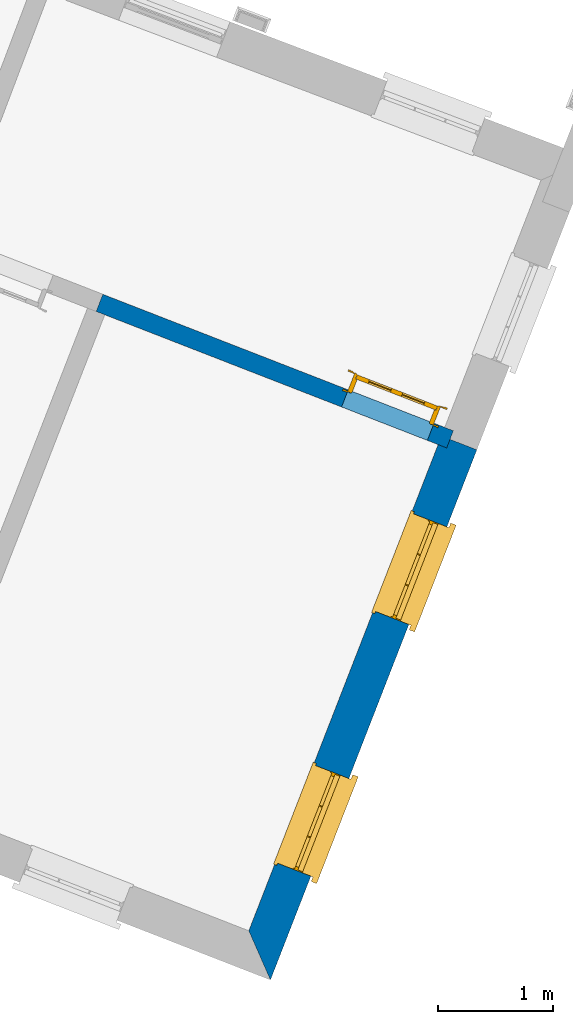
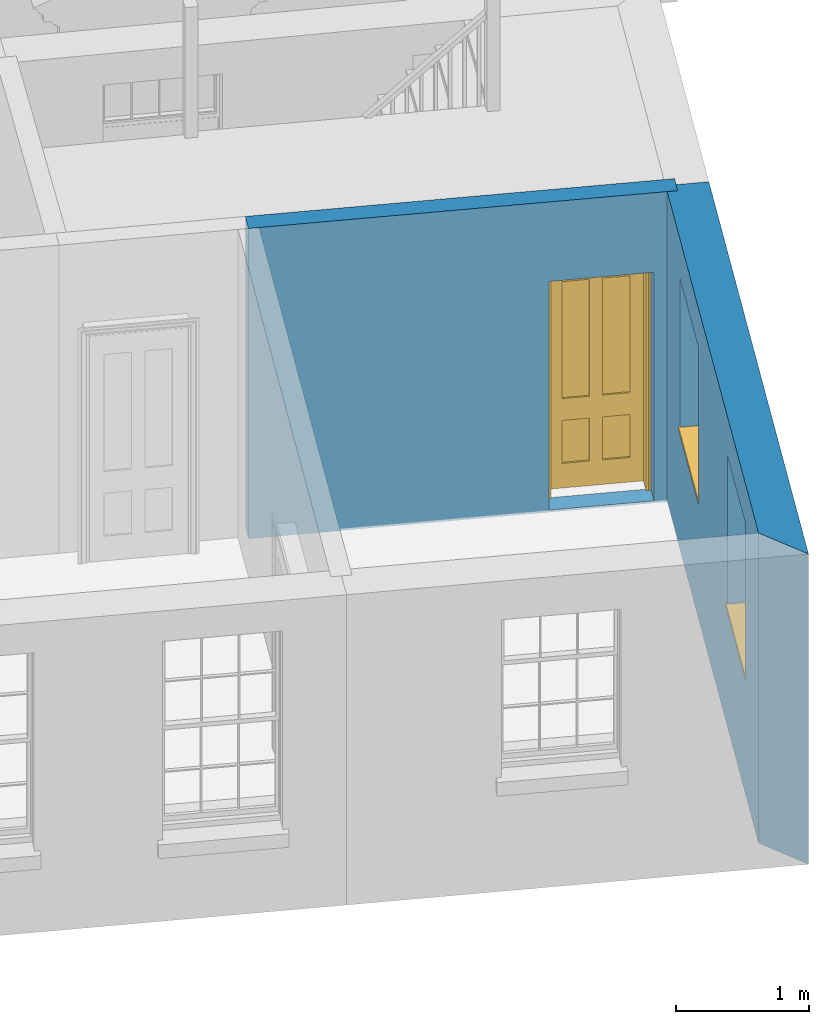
# One storey, part 6 of 10: 2 walls, 2 windows, 1 door, 3 openings.
"""IFC4 building model written with IfcOpenShell, lengths in metres."""

from ifc_helpers import new_model, si_unit, frame, origin, origin_with_axes, place, context, subcontext, project, spatial, polyline, outline, extrude, faceted_brep, source, transform, mapped, material, layer, layer_set, layer_usage, type_object, type_shapes, element, fill, save


model = new_model("IFC4")

# Units and contexts
model_context = context("Model", 3, world=origin_with_axes())
body_context = subcontext(model_context, "Body", "Model", "MODEL_VIEW")
ifc_project = project(units=[si_unit("PLANEANGLEUNIT", "RADIAN"), si_unit("MASSUNIT", "GRAM", prefix="KILO"), si_unit("FORCEUNIT", "NEWTON", prefix="KILO"), si_unit("LENGTHUNIT", "METRE"), si_unit("AREAUNIT", "SQUARE_METRE"), si_unit("VOLUMEUNIT", "CUBIC_METRE")], contexts=[model_context, model_context])

# Sites, building, storey
site_1_placement = place(None, origin_with_axes())
site_1 = spatial("IfcSite", under=ifc_project, at=site_1_placement, Name="Tamar")
site_2_placement = place(site_1_placement, origin_with_axes())
site_2 = spatial("IfcSite", under=site_1, at=site_2_placement, Name="Site plot-8", CompositionType="ELEMENT")
building_placement = place(None, origin_with_axes())
building = spatial("IfcBuilding", under=site_2, at=building_placement, Name="Building plot-8", CompositionType="ELEMENT")
storey_placement = place(None, frame((0.0, 0.0, 26.0), z_axis=(0.0, 0.0, 1.0), x_axis=(1.0, 0.0, 0.0)))
storey = spatial("IfcBuildingStorey", under=building, at=storey_placement, Name="plot-8 0", CompositionType="ELEMENT", Elevation=26.0)

# Wall, openings, windows
ifc_material_1 = material(Name="Masonry")
ifc_layer_1 = layer(ifc_material_1, 0.33, ventilated=False)
ifc_layer_set_1 = layer_set([ifc_layer_1], Name="exterior_0.08_0.25")
ifc_layer_usage_1 = layer_usage(ifc_layer_set_1, "AXIS2", "POSITIVE", -0.25)
wall_type_1 = type_object("IfcWallType", Name="exterior_0.08_0.25", PredefinedType="SOLIDWALL", material=ifc_layer_set_1)
wall_1_placement = place(storey_placement, frame((228.84289710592, 302.396840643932, 0.0), z_axis=(0.0, 0.0, 1.0), x_axis=(0.362808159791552, 0.931863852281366, 0.0)))
wall_1 = element("IfcWall", 1, at=wall_1_placement, inside=storey, type_object=wall_type_1, material=ifc_layer_usage_1, Name="exterior", context=body_context, shape_type="SweptSolid", body=[
    extrude(outline(polyline([(0.0800000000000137, 0.0799999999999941), (-0.250000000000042, -0.250000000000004), (4.69140201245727, -0.249999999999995), (4.69140201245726, 0.0800000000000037), (0.0800000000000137, 0.0799999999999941)])), origin_with_axes(), (0.0, 0.0, 1.0), 2.85),
])
opening_1_placement = place(wall_1_placement, frame((0.717850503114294, 0.0, 1.05)))
opening_1 = element("IfcOpeningElement", 2, at=opening_1_placement, cuts=wall_1, Name="My Opening", ObjectType="Opening", context=body_context, shape_type="SweptSolid", body=[
    extrude(outline(polyline([(0.0, -0.269999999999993), (0.910000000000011, -0.270000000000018), (0.910000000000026, 1.09999999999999), (1.55431223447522e-14, 1.10000000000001), (0.0, -0.269999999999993)])), origin_with_axes(), (0.0, 0.0, 1.0), 1.445),
])
opening_2_placement = place(wall_1_placement, frame((3.06355150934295, 0.0, 1.05)))
opening_2 = element("IfcOpeningElement", 3, at=opening_2_placement, cuts=wall_1, Name="My Opening", ObjectType="Opening", context=body_context, shape_type="SweptSolid", body=[
    extrude(outline(polyline([(0.0, -0.269999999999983), (0.910000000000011, -0.270000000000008), (0.910000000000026, 1.1), (1.55431223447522e-14, 1.10000000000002), (0.0, -0.269999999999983)])), origin_with_axes(), (0.0, 0.0, 1.0), 1.445),
])
window_type = type_object("IfcWindowType", Name="sash_shorter", PartitioningType="DOUBLE_PANEL_HORIZONTAL", PredefinedType="NOTDEFINED")
shared_shape_1 = source(origin(), body_context, "Body", "Brep", [
    faceted_brep([(0.876875, 0.145, 0.999097), (0.876875, 0.145, 1.411875), (0.9, 0.145, 1.435), (0.033125, 0.145, 1.411875), (0.033125, 0.145, 0.999097), (0.01, 0.145, 1.435), (0.033125, 0.115, 1.411875), (0.01, 0.115, 1.435), (0.033125, 0.115, 0.999097), (0.876875, 0.115, 1.411875), (0.876875, 0.115, 0.999097), (0.9, 0.115, 1.435), (0.033125, 0.145, 0.960972), (0.01, 0.145, 0.960972), (0.033125, 0.145, 0.548195), (0.876875, 0.145, 0.960972), (0.876875, 0.145, 0.548195), (0.9, 0.145, 0.960972), (0.876875, 0.145, 0.538195), (0.876875, 0.145, 0.125417), (0.9, 0.145, 0.077167), (0.033125, 0.145, 0.125417), (0.033125, 0.145, 0.538195), (0.01, 0.145, 0.077167), (0.9, 0.115, 0.960972), (0.01, 0.115, 0.960972), (-0.0425, 0.0, 0.01), (-0.0425, -0.05, 0.001667), (0.0, 0.0, 0.01), (0.9525, 0.0, 0.01), (0.91, 0.0, 0.01), (0.9525, -0.05, 0.001667), (-0.02, 0.33, 0.077167), (0.0, 0.33, 0.077167), (-0.02, 0.36, 0.077167), (0.0, 0.19, 0.077167), (0.01, 0.19, 0.077167), (0.91, 0.19, 0.077167), (0.91, 0.33, 0.077167), (0.9, 0.19, 0.077167), (0.93, 0.33, 0.077167), (0.93, 0.36, 0.077167), (0.01, 0.145, 0.999097), (0.01, 0.175, 0.999097), (0.9, 0.145, 0.999097), (0.9, 0.175, 0.999097), (0.876875, 0.175, 0.125417), (0.876875, 0.175, 0.538195), (0.9, 0.175, 0.077167), (0.876875, 0.175, 0.548195), (0.876875, 0.175, 0.960972), (0.033125, 0.175, 0.125417), (0.01, 0.175, 0.077167), (0.033125, 0.175, 0.538195), (0.033125, 0.175, 0.960972), (0.033125, 0.175, 0.548195), (-0.02, 0.33, 0.052167), (-0.02, 0.36, 0.052167), (0.93, 0.36, 0.052167), (0.93, 0.33, 0.052167), (0.91, 0.33, 0.052167), (0.0, 0.33, 0.052167), (0.91, 0.1, 0.026667), (0.0, 0.1, 0.026667), (-0.0425, -0.05, -0.123333), (0.9525, -0.05, -0.123333), (-0.0425, 0.0, -0.123333), (0.9525, 0.0, -0.123333), (0.01, 0.19, 1.435), (0.9, 0.19, 1.435), (0.0, 0.19, 1.445), (0.91, 0.19, 1.445), (0.01, 0.1, 0.077167), (0.9, 0.1, 0.077167), (0.592292, 0.145, 0.125417), (0.592292, 0.175, 0.125417), (0.317708, 0.175, 0.125417), (0.317708, 0.145, 0.125417), (0.592292, 0.145, 0.548195), (0.317708, 0.145, 0.548195), (0.317708, 0.145, 0.538195), (0.592292, 0.145, 0.538195), (0.592292, 0.175, 0.548195), (0.317708, 0.175, 0.548195), (0.602292, 0.175, 0.548195), (0.602292, 0.145, 0.548195), (0.317708, 0.175, 0.538195), (0.307708, 0.175, 0.125417), (0.307708, 0.175, 0.538195), (0.602292, 0.175, 0.538195), (0.602292, 0.175, 0.125417), (0.592292, 0.175, 0.538195), (0.307708, 0.175, 0.548195), (0.317708, 0.175, 0.960972), (0.307708, 0.175, 0.960972), (0.602292, 0.175, 0.960972), (0.592292, 0.175, 0.960972), (0.307708, 0.145, 0.538195), (0.307708, 0.145, 0.125417), (0.307708, 0.145, 0.548195), (0.307708, 0.145, 0.960972), (0.592292, 0.145, 0.960972), (0.317708, 0.145, 0.960972), (0.602292, 0.145, 0.960972), (0.602292, 0.145, 0.538195), (0.602292, 0.145, 0.125417), (0.317708, 0.115, 1.411875), (0.307708, 0.115, 1.411875), (0.307708, 0.115, 0.999097), (0.317708, 0.115, 0.999097), (0.602292, 0.115, 1.411875), (0.592292, 0.115, 1.411875), (0.592292, 0.115, 0.999097), (0.602292, 0.115, 0.999097), (0.317708, 0.145, 0.999097), (0.307708, 0.145, 0.999097), (0.307708, 0.145, 1.411875), (0.317708, 0.145, 1.411875), (0.602292, 0.145, 0.999097), (0.592292, 0.145, 0.999097), (0.592292, 0.145, 1.411875), (0.602292, 0.145, 1.411875), (0.91, 0.1, 1.445), (0.9, 0.1, 1.435), (0.01, 0.1, 1.435), (0.0, 0.1, 1.445), (0.91, 0.0, 0.0), (0.0, 0.0, 0.0), (0.91, 0.33, 0.0), (0.0, 0.33, 0.0)], [[[0, 1, 2]], [[3, 4, 5]], [[6, 7, 8]], [[9, 10, 11]], [[12, 13, 14]], [[15, 16, 17]], [[18, 19, 20]], [[21, 22, 23]], [[24, 15, 17]], [[13, 12, 25]], [[26, 27, 28]], [[29, 30, 31]], [[32, 33, 34]], [[35, 36, 33]], [[37, 38, 39]], [[40, 41, 38]], [[42, 4, 43]], [[44, 45, 0]], [[46, 47, 48]], [[49, 50, 45]], [[51, 52, 53]], [[54, 55, 43]], [[38, 33, 36, 39]], [[41, 34, 33, 38]], [[56, 32, 34, 57]], [[57, 34, 41, 58]], [[58, 41, 40, 59]], [[57, 58, 60, 61]], [[52, 48, 39, 36]], [[62, 63, 28, 30]], [[27, 31, 30, 28]], [[27, 64, 65, 31]], [[66, 67, 65, 64]], [[2, 5, 68, 69]], [[68, 70, 71, 69]], [[20, 23, 72, 73]], [[73, 72, 63, 62]], [[74, 75, 76, 77]], [[78, 79, 80, 81]], [[78, 82, 83, 79]], [[16, 49, 84, 85]], [[86, 76, 87, 88]], [[89, 90, 75, 91]], [[92, 88, 53, 55]], [[82, 91, 86, 83]], [[93, 83, 92, 94]], [[95, 84, 82, 96]], [[89, 84, 49, 47]], [[97, 88, 87, 98]], [[22, 53, 88, 97]], [[81, 91, 75, 74]], [[80, 86, 91, 81]], [[77, 76, 86, 80]], [[99, 92, 55, 14]], [[100, 94, 92, 99]], [[101, 96, 82, 78]], [[79, 83, 93, 102]], [[85, 84, 95, 103]], [[104, 89, 47, 18]], [[105, 90, 89, 104]], [[104, 18, 16, 85]], [[80, 97, 98, 77]], [[104, 81, 74, 105]], [[103, 101, 78, 85]], [[99, 14, 22, 97]], [[102, 100, 99, 79]], [[106, 107, 108, 109]], [[110, 111, 112, 113]], [[114, 115, 116, 117]], [[118, 119, 120, 121]], [[107, 116, 115, 108]], [[111, 120, 119, 112]], [[109, 114, 117, 106]], [[113, 118, 121, 110]], [[85, 78, 81, 104]], [[84, 89, 91, 82]], [[83, 86, 88, 92]], [[79, 99, 97, 80]], [[109, 112, 119, 114]], [[102, 93, 96, 101]], [[106, 117, 120, 111]], [[98, 87, 51, 21]], [[6, 3, 116, 107]], [[110, 121, 1, 9]], [[19, 46, 90, 105]], [[26, 66, 64, 27]], [[29, 31, 65, 67]], [[25, 24, 112, 109]], [[11, 7, 106, 111]], [[75, 48, 52, 76]], [[43, 45, 96, 93]], [[45, 43, 114, 119]], [[5, 2, 120, 117]], [[24, 25, 102, 101]], [[42, 5, 4]], [[2, 44, 0]], [[49, 45, 48, 47]], [[52, 43, 55, 53]], [[14, 13, 23, 22]], [[20, 17, 16, 18]], [[24, 11, 10]], [[25, 8, 7]], [[8, 4, 3, 6]], [[9, 1, 0, 10]], [[15, 50, 49, 16]], [[18, 47, 46, 19]], [[21, 51, 53, 22]], [[14, 55, 54, 12]], [[44, 2, 69, 45]], [[68, 5, 42, 43]], [[36, 35, 70, 68]], [[39, 69, 71, 37]], [[62, 122, 123, 73]], [[63, 72, 124, 125]], [[8, 108, 115, 4]], [[113, 10, 0, 118]], [[94, 100, 12, 54]], [[17, 20, 73, 24]], [[72, 23, 13, 25]], [[52, 36, 68, 43]], [[69, 39, 48, 45]], [[11, 24, 73, 123]], [[7, 124, 72, 25]], [[23, 77, 98]], [[98, 21, 23]], [[105, 74, 20]], [[20, 19, 105]], [[20, 74, 77, 23]], [[113, 112, 24]], [[24, 10, 113]], [[25, 109, 108]], [[108, 8, 25]], [[110, 9, 11]], [[11, 111, 110]], [[7, 6, 107]], [[107, 106, 7]], [[5, 117, 116]], [[116, 3, 5]], [[121, 120, 2]], [[2, 1, 121]], [[11, 123, 124, 7]], [[122, 125, 124, 123]], [[43, 93, 94]], [[94, 54, 43]], [[96, 45, 95]], [[50, 95, 45]], [[15, 103, 95, 50]], [[48, 75, 90]], [[90, 46, 48]], [[87, 76, 52]], [[52, 51, 87]], [[103, 15, 24]], [[24, 101, 103]], [[100, 102, 25]], [[25, 12, 100]], [[115, 114, 43]], [[43, 4, 115]], [[118, 0, 45]], [[45, 119, 118]], [[71, 70, 125, 122]], [[70, 35, 63, 125]], [[122, 62, 37, 71]], [[126, 67, 66, 127]], [[60, 58, 59]], [[38, 60, 59, 40]], [[61, 56, 57]], [[32, 56, 61, 33]], [[61, 60, 128, 129]], [[62, 60, 38, 37]], [[126, 128, 60, 62]], [[33, 61, 63, 35]], [[61, 129, 127, 63]], [[128, 126, 127, 129]], [[28, 127, 66, 26]], [[63, 127, 28]], [[29, 67, 126, 30]], [[30, 126, 62]]]),
])
type_shapes(window_type, [shared_shape_1])
window_1_placement = place(storey_placement, frame((229.354942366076, 302.967821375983, 1.05), z_axis=(0.0, 0.0, 1.0), x_axis=(0.330155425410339, 0.847996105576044, 0.0)))
window_1 = element("IfcWindow", 4, at=window_1_placement, inside=storey, type_object=window_type, Name="kitchen street window", OverallHeight=1.445, OverallWidth=0.91, context=body_context, shape_type="MappedRepresentation", body=[
    mapped(shared_shape_1, transform((0.0, 0.0, 0.0), scale=1.0)),
])
fill(opening_1, window_1)
window_2_placement = place(storey_placement, frame((230.205981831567, 305.153695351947, 1.05), z_axis=(0.0, 0.0, 1.0), x_axis=(0.330155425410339, 0.847996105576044, 0.0)))
window_2 = element("IfcWindow", 5, at=window_2_placement, inside=storey, type_object=window_type, Name="kitchen street window", OverallHeight=1.445, OverallWidth=0.91, context=body_context, shape_type="MappedRepresentation", body=[
    mapped(shared_shape_1, transform((0.0, 0.0, 0.0), scale=1.0)),
])
fill(opening_2, window_2)

# Wall, opening, door
ifc_material_2 = material(Name="Masonry")
ifc_layer_2 = layer(ifc_material_2, 0.16, ventilated=False)
ifc_layer_set_2 = layer_set([ifc_layer_2], Name="interior_0.08_0.08")
ifc_layer_usage_2 = layer_usage(ifc_layer_set_2, "AXIS2", "POSITIVE", -0.08)
wall_type_2 = type_object("IfcWallType", Name="interior_0.08_0.08", PredefinedType="SOLIDWALL", material=ifc_layer_set_2)
wall_2_placement = place(storey_placement, frame((227.500590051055, 307.953877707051, 0.0), z_axis=(0.0, 0.0, 1.0), x_axis=(0.931863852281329, -0.362808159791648, 0.0)))
wall_2 = element("IfcWall", 6, at=wall_2_placement, inside=storey, type_object=wall_type_2, material=ifc_layer_usage_2, Name="interior", context=body_context, shape_type="SweptSolid", body=[
    extrude(outline(polyline([(1.49703833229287e-15, 0.0800000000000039), (-1.50683550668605e-15, -0.0800000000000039), (3.26698581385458, -0.0800000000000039), (3.26698581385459, 0.080000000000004), (1.49703833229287e-15, 0.0800000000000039)])), origin_with_axes(), (0.0, 0.0, 1.0), 2.85),
])
opening_3_placement = place(wall_2_placement, frame((2.28698581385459, 0.0, 0.0199999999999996)))
opening_3 = element("IfcOpeningElement", 7, at=opening_3_placement, cuts=wall_2, Name="My Opening", ObjectType="Opening", context=body_context, shape_type="SweptSolid", body=[
    extrude(outline(polyline([(0.0, -0.100000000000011), (0.799999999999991, -0.099999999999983), (0.799999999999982, 1.1), (-9.76996261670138e-15, 1.09999999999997), (0.0, -0.100000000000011)])), origin_with_axes(), (0.0, 0.0, 1.0), 2.1),
])
door_type = type_object("IfcDoorType", Name="door_inside", OperationType="SINGLE_SWING_LEFT", PredefinedType="NOTDEFINED")
shared_shape_2 = source(origin(), body_context, "Body", "Brep", [
    faceted_brep([(0.773, 0.33, 1.895), (0.66, 0.33, 1.895), (0.66, 0.33, 2.073), (0.773, 0.33, 2.073), (0.773, 0.33, 0.82), (0.66, 0.33, 0.82), (0.45, 0.33, 1.895), (0.45, 0.33, 2.073), (0.773, 0.33, 0.62), (0.66, 0.33, 0.62), (0.66, 0.315, 0.82), (0.66, 0.315, 1.895), (0.45, 0.315, 1.895), (0.35, 0.33, 1.895), (0.35, 0.33, 2.073), (0.773, 0.33, 0.225), (0.66, 0.33, 0.225), (0.45, 0.33, 0.62), (0.45, 0.33, 0.82), (0.45, 0.315, 0.82), (0.35, 0.33, 0.82), (0.14, 0.33, 2.073), (0.14, 0.33, 1.895), (0.773, 0.33, 0.0), (0.66, 0.33, 0.0), (0.66, 0.315, 0.225), (0.66, 0.315, 0.62), (0.45, 0.315, 0.62), (0.35, 0.33, 0.62), (0.35, 0.315, 0.82), (0.35, 0.315, 1.895), (0.14, 0.315, 1.895), (0.027, 0.33, 2.073), (0.027, 0.33, 1.895), (0.773, 0.292, 0.0), (0.66, 0.292, 0.0), (0.45, 0.33, 0.0), (0.45, 0.33, 0.225), (0.45, 0.315, 0.225), (0.35, 0.33, 0.225), (0.14, 0.33, 0.82), (0.14, 0.33, 0.62), (0.14, 0.315, 0.82), (0.027, 0.33, 0.82), (0.773, 0.292, 0.225), (0.66, 0.292, 0.225), (0.45, 0.292, 0.0), (0.35, 0.33, 0.0), (0.35, 0.315, 0.225), (0.35, 0.315, 0.62), (0.14, 0.315, 0.62), (0.027, 0.33, 0.62), (0.773, 0.292, 0.62), (0.66, 0.292, 0.62), (0.45, 0.292, 0.225), (0.35, 0.292, 0.0), (0.14, 0.33, 0.225), (0.14, 0.33, 0.0), (0.14, 0.315, 0.225), (0.027, 0.33, 0.225), (0.773, 0.292, 0.82), (0.66, 0.292, 0.82), (0.66, 0.307, 0.62), (0.66, 0.307, 0.225), (0.45, 0.307, 0.225), (0.35, 0.292, 0.225), (0.14, 0.292, 0.0), (0.027, 0.33, 0.0), (0.773, 0.292, 1.895), (0.66, 0.292, 1.895), (0.45, 0.292, 0.62), (0.45, 0.292, 0.82), (0.45, 0.307, 0.62), (0.35, 0.292, 0.62), (0.14, 0.292, 0.225), (0.027, 0.292, 0.0), (0.773, 0.292, 2.073), (0.66, 0.292, 2.073), (0.66, 0.307, 1.895), (0.66, 0.307, 0.82), (0.45, 0.307, 0.82), (0.35, 0.292, 0.82), (0.35, 0.307, 0.62), (0.35, 0.307, 0.225), (0.14, 0.307, 0.225), (0.027, 0.292, 0.225), (0.45, 0.292, 1.895), (0.45, 0.292, 2.073), (0.45, 0.307, 1.895), (0.35, 0.292, 1.895), (0.14, 0.292, 0.82), (0.14, 0.292, 0.62), (0.14, 0.307, 0.62), (0.027, 0.292, 0.62), (0.35, 0.292, 2.073), (0.35, 0.307, 1.895), (0.35, 0.307, 0.82), (0.14, 0.307, 0.82), (0.027, 0.292, 0.82), (0.14, 0.292, 2.073), (0.14, 0.292, 1.895), (0.14, 0.307, 1.895), (0.027, 0.292, 1.895), (0.027, 0.292, 2.073), (0.02, 0.335, 0.0), (0.005, 0.34, 0.0), (0.005, 0.34, 2.095), (0.02, 0.335, 2.08), (0.02, 0.33, 0.0), (0.0, 0.335, 0.0), (0.0, 0.335, 2.1), (0.795, 0.34, 2.095), (0.78, 0.335, 2.08), (0.02, 0.33, 2.08), (0.0, 0.33, 0.0), (-0.032, 0.345, 0.0), (-0.032, 0.345, 2.132), (0.8, 0.335, 2.1), (0.795, 0.34, 0.0), (0.78, 0.335, 0.0), (0.78, 0.33, 2.08), (0.04, 0.29, 0.0), (0.025, 0.29, 0.0), (0.025, 0.29, 2.075), (0.04, 0.29, 2.06), (-0.04, 0.34, 0.0), (-0.04, 0.34, 2.14), (0.832, 0.345, 2.132), (0.8, 0.335, 0.0), (0.78, 0.33, 0.0), (0.8, 0.33, 0.0), (0.86, 0.33, 0.0), (0.86, 0.33, 2.16), (0.8, 0.33, 2.1), (-0.06, 0.33, 2.16), (0.0, 0.33, 2.1), (-0.06, 0.33, 0.0), (-0.04, 0.345, 0.0), (-0.04, 0.345, 2.14), (0.84, 0.34, 2.14), (0.832, 0.345, 0.0), (0.84, 0.34, 0.0), (0.86, 0.345, 0.0), (0.86, 0.345, 2.16), (-0.06, 0.345, 2.16), (-0.06, 0.345, 0.0), (0.84, 0.345, 0.0), (0.84, 0.345, 2.14), (-0.025, 0.155, 0.0), (-0.025, 0.16, 0.0), (-0.025, 0.16, 2.125), (-0.025, 0.155, 2.125), (-0.017, 0.155, 0.0), (-0.017, 0.155, 2.117), (0.825, 0.16, 2.125), (0.825, 0.155, 2.125), (0.825, 0.155, 0.0), (0.845, 0.155, 0.0), (-0.045, 0.155, 2.145), (-0.045, 0.155, 0.0), (0.845, 0.155, 2.145), (0.015, 0.165, 0.0), (0.015, 0.165, 2.085), (0.817, 0.155, 2.117), (0.825, 0.16, 0.0), (0.845, 0.17, 0.0), (0.845, 0.17, 2.145), (-0.045, 0.17, 2.145), (-0.045, 0.17, 0.0), (0.02, 0.16, 0.0), (0.02, 0.16, 2.08), (0.785, 0.165, 2.085), (0.817, 0.155, 0.0), (0.8, 0.17, 0.0), (0.8, 0.17, 2.1), (0.0, 0.17, 2.1), (0.0, 0.17, 0.0), (0.035, 0.165, 0.0), (0.035, 0.165, 2.065), (0.78, 0.16, 2.08), (0.785, 0.165, 0.0), (0.775, 0.29, 2.075), (0.76, 0.29, 2.06), (0.035, 0.17, 2.065), (0.035, 0.17, 0.0), (0.765, 0.165, 2.065), (0.78, 0.16, 0.0), (0.765, 0.17, 0.0), (0.765, 0.17, 2.065), (0.765, 0.165, 0.0), (0.04, 0.17, 2.06), (0.04, 0.17, 0.0), (0.76, 0.17, 2.06), (0.76, 0.17, 0.0), (0.76, 0.29, 0.0), (0.775, 0.29, 0.0), (0.025, 0.33, 0.0), (0.025, 0.33, 2.075), (0.775, 0.33, 0.0), (0.775, 0.33, 2.075)], [[[0, 1, 2, 3]], [[1, 0, 4, 5]], [[1, 6, 7, 2]], [[8, 9, 5, 4]], [[1, 5, 10, 11]], [[6, 1, 11, 12]], [[6, 13, 14, 7]], [[15, 16, 9, 8]], [[9, 17, 18, 5]], [[5, 18, 19, 10]], [[10, 19, 12, 11]], [[18, 6, 12, 19]], [[18, 20, 13, 6]], [[21, 14, 13, 22]], [[23, 24, 16, 15]], [[9, 16, 25, 26]], [[17, 9, 26, 27]], [[17, 28, 20, 18]], [[13, 20, 29, 30]], [[22, 13, 30, 31]], [[32, 21, 22, 33]], [[34, 35, 24, 23]], [[24, 36, 37, 16]], [[16, 37, 38, 25]], [[25, 38, 27, 26]], [[37, 17, 27, 38]], [[37, 39, 28, 17]], [[40, 20, 28, 41]], [[20, 40, 42, 29]], [[31, 30, 29, 42]], [[40, 22, 31, 42]], [[33, 22, 40, 43]], [[35, 34, 44, 45]], [[35, 46, 36, 24]], [[36, 47, 39, 37]], [[28, 39, 48, 49]], [[41, 28, 49, 50]], [[43, 40, 41, 51]], [[45, 44, 52, 53]], [[46, 35, 45, 54]], [[46, 55, 47, 36]], [[56, 39, 47, 57]], [[39, 56, 58, 48]], [[50, 49, 48, 58]], [[56, 41, 50, 58]], [[51, 41, 56, 59]], [[53, 52, 60, 61]], [[45, 53, 62, 63]], [[54, 45, 63, 64]], [[55, 46, 54, 65]], [[55, 66, 57, 47]], [[59, 56, 57, 67]], [[61, 60, 68, 69]], [[70, 53, 61, 71]], [[53, 70, 72, 62]], [[72, 64, 63, 62]], [[70, 54, 64, 72]], [[65, 54, 70, 73]], [[65, 74, 66, 55]], [[67, 57, 66, 75]], [[69, 68, 76, 77]], [[61, 69, 78, 79]], [[71, 61, 79, 80]], [[73, 70, 71, 81]], [[65, 73, 82, 83]], [[74, 65, 83, 84]], [[74, 85, 75, 66]], [[86, 69, 77, 87]], [[69, 86, 88, 78]], [[88, 80, 79, 78]], [[86, 71, 80, 88]], [[81, 71, 86, 89]], [[73, 81, 90, 91]], [[73, 91, 92, 82]], [[83, 82, 92, 84]], [[91, 74, 84, 92]], [[91, 93, 85, 74]], [[89, 86, 87, 94]], [[81, 89, 95, 96]], [[90, 81, 96, 97]], [[90, 98, 93, 91]], [[94, 99, 100, 89]], [[89, 100, 101, 95]], [[101, 97, 96, 95]], [[100, 90, 97, 101]], [[100, 102, 98, 90]], [[99, 103, 102, 100]], [[32, 103, 99, 21]], [[102, 103, 32, 33]], [[98, 102, 33, 43]], [[21, 99, 94, 14]], [[94, 87, 7, 14]], [[7, 87, 77, 2]], [[76, 3, 2, 77]], [[43, 51, 93, 98]], [[51, 59, 85, 93]], [[67, 75, 85, 59]], [[34, 23, 15, 44]], [[44, 15, 8, 52]], [[52, 8, 4, 60]], [[0, 68, 60, 4]], [[0, 3, 76, 68]], [[104, 105, 106, 107]], [[104, 108, 109, 105]], [[105, 109, 110, 106]], [[107, 106, 111, 112]], [[107, 113, 108, 104]], [[114, 109, 108]], [[109, 115, 116, 110]], [[106, 110, 117, 111]], [[112, 111, 118, 119]], [[113, 107, 112, 120]], [[121, 122, 123, 124]], [[115, 109, 114, 125]], [[115, 125, 126, 116]], [[110, 116, 127, 117]], [[111, 117, 128, 118]], [[118, 128, 129, 119]], [[120, 112, 119, 129]], [[130, 129, 128]], [[130, 131, 132, 133]], [[133, 132, 134, 135]], [[135, 134, 136, 114]], [[136, 125, 114]], [[125, 137, 138, 126]], [[116, 126, 139, 127]], [[117, 127, 140, 128]], [[141, 130, 128, 140]], [[131, 130, 141]], [[131, 142, 143, 132]], [[132, 143, 144, 134]], [[134, 144, 145, 136]], [[137, 125, 136, 145]], [[143, 142, 146]], [[143, 146, 147]], [[137, 145, 144]], [[143, 147, 138]], [[138, 137, 144]], [[143, 138, 144]], [[126, 138, 147, 139]], [[127, 139, 141, 140]], [[142, 131, 141, 146]], [[139, 147, 146, 141]], [[148, 149, 150, 151]], [[149, 152, 153, 150]], [[151, 150, 154, 155]], [[155, 156, 157]], [[158, 159, 148]], [[158, 148, 151]], [[155, 157, 160]], [[158, 151, 155]], [[155, 160, 158]], [[152, 161, 162, 153]], [[150, 153, 163, 154]], [[155, 154, 164, 156]], [[156, 164, 165, 157]], [[157, 165, 166, 160]], [[160, 166, 167, 158]], [[158, 167, 168, 159]], [[161, 169, 170, 162]], [[153, 162, 171, 163]], [[154, 163, 172, 164]], [[165, 164, 173]], [[165, 173, 174, 166]], [[166, 174, 175, 167]], [[167, 175, 176, 168]], [[169, 177, 178, 170]], [[162, 170, 179, 171]], [[163, 171, 180, 172]], [[172, 180, 173, 164]], [[124, 123, 181, 182]], [[183, 178, 177, 184]], [[170, 178, 185, 179]], [[171, 179, 186, 180]], [[187, 173, 180]], [[185, 188, 187, 189]], [[188, 185, 178, 183]], [[179, 185, 189, 186]], [[189, 187, 180, 186]], [[190, 183, 184, 191]], [[192, 188, 183, 190]], [[191, 184, 122, 121]], [[124, 190, 191, 121]], [[193, 187, 188, 192]], [[182, 192, 190, 124]], [[184, 176, 122]], [[194, 195, 187, 193]], [[192, 182, 194, 193]], [[161, 176, 184]], [[114, 108, 122, 176]], [[173, 187, 195]], [[152, 149, 176, 161]], [[169, 161, 184, 177]], [[196, 122, 108]], [[176, 175, 135, 114]], [[173, 195, 129, 130]], [[176, 149, 168]], [[123, 122, 196, 197]], [[196, 108, 113, 197]], [[175, 174, 133, 135]], [[198, 129, 195]], [[133, 174, 173, 130]], [[159, 168, 149, 148]], [[181, 123, 197, 199]], [[197, 113, 120, 199]], [[199, 120, 129, 198]], [[195, 181, 199, 198]], [[195, 194, 182, 181]]]),
])
type_shapes(door_type, [shared_shape_2])
door_placement = place(storey_placement, frame((229.595468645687, 307.030954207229, 0.0199999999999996), z_axis=(0.0, 0.0, 1.0), x_axis=(0.745491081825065, -0.29024652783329, 0.0)))
door = element("IfcDoor", 8, at=door_placement, inside=storey, type_object=door_type, Name="kitchen inside door", OverallHeight=2.1, OverallWidth=0.8, context=body_context, shape_type="MappedRepresentation", body=[
    mapped(shared_shape_2, transform((0.0, 0.0, 0.0), scale=1.0)),
])
fill(opening_3, door)

save(model, "model.ifc")
